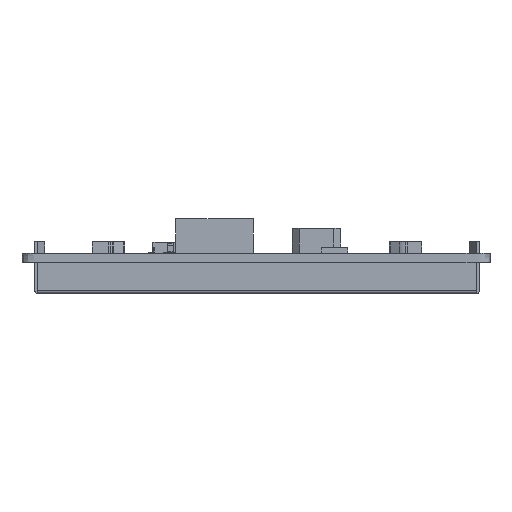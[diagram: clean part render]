
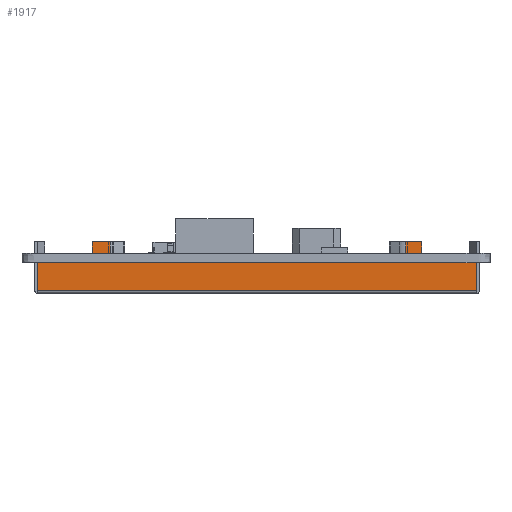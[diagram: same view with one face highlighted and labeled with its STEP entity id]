
A CAD part, left-side view. The second image highlights one B-rep face of the part: STEP entity #1917.
In plain terms, the highlighted planar face has unit normal (-1, 0, 0).
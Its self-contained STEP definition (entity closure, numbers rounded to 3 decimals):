
#1917=ADVANCED_FACE('',(#3896),#2811,.F.);
#2811=PLANE('',#24293);
#3896=FACE_OUTER_BOUND('',#5030,.T.);
#5030=EDGE_LOOP('',(#11233,#11234,#11235,#11236,#11237,#11238,#11239,#11240,
#11241,#11242,#11243,#11244,#11245,#11246,#11247,#11248));
#11233=ORIENTED_EDGE('',*,*,#17152,.F.);
#11234=ORIENTED_EDGE('',*,*,#17153,.T.);
#11235=ORIENTED_EDGE('',*,*,#17154,.T.);
#11236=ORIENTED_EDGE('',*,*,#17149,.T.);
#11237=ORIENTED_EDGE('',*,*,#17155,.T.);
#11238=ORIENTED_EDGE('',*,*,#17156,.F.);
#11239=ORIENTED_EDGE('',*,*,#17157,.T.);
#11240=ORIENTED_EDGE('',*,*,#17158,.F.);
#11241=ORIENTED_EDGE('',*,*,#17159,.F.);
#11242=ORIENTED_EDGE('',*,*,#17145,.T.);
#11243=ORIENTED_EDGE('',*,*,#17160,.T.);
#11244=ORIENTED_EDGE('',*,*,#17161,.T.);
#11245=ORIENTED_EDGE('',*,*,#17162,.F.);
#11246=ORIENTED_EDGE('',*,*,#17163,.F.);
#11247=ORIENTED_EDGE('',*,*,#17164,.F.);
#11248=ORIENTED_EDGE('',*,*,#17143,.T.);
#14087=VERTEX_POINT('',#35925);
#14089=VERTEX_POINT('',#35929);
#14090=VERTEX_POINT('',#35933);
#14092=VERTEX_POINT('',#35936);
#14094=VERTEX_POINT('',#35942);
#14096=VERTEX_POINT('',#35945);
#14098=VERTEX_POINT('',#35951);
#14099=VERTEX_POINT('',#35953);
#14100=VERTEX_POINT('',#35956);
#14101=VERTEX_POINT('',#35958);
#14102=VERTEX_POINT('',#35960);
#14103=VERTEX_POINT('',#35962);
#14104=VERTEX_POINT('',#35965);
#14105=VERTEX_POINT('',#35967);
#14106=VERTEX_POINT('',#35969);
#14107=VERTEX_POINT('',#35971);
#17143=EDGE_CURVE('',#14087,#14089,#19884,.T.);
#17145=EDGE_CURVE('',#14092,#14090,#19886,.T.);
#17149=EDGE_CURVE('',#14096,#14094,#19890,.T.);
#17152=EDGE_CURVE('',#14098,#14089,#19893,.T.);
#17153=EDGE_CURVE('',#14098,#14099,#19894,.T.);
#17154=EDGE_CURVE('',#14099,#14096,#19895,.T.);
#17155=EDGE_CURVE('',#14094,#14100,#19896,.T.);
#17156=EDGE_CURVE('',#14101,#14100,#19897,.T.);
#17157=EDGE_CURVE('',#14101,#14102,#19898,.T.);
#17158=EDGE_CURVE('',#14103,#14102,#19899,.T.);
#17159=EDGE_CURVE('',#14092,#14103,#19900,.T.);
#17160=EDGE_CURVE('',#14090,#14104,#19901,.T.);
#17161=EDGE_CURVE('',#14104,#14105,#19902,.T.);
#17162=EDGE_CURVE('',#14106,#14105,#19903,.T.);
#17163=EDGE_CURVE('',#14107,#14106,#19904,.T.);
#17164=EDGE_CURVE('',#14087,#14107,#19905,.T.);
#19884=LINE('',#35930,#22468);
#19886=LINE('',#35935,#22470);
#19890=LINE('',#35944,#22474);
#19893=LINE('',#35950,#22477);
#19894=LINE('',#35952,#22478);
#19895=LINE('',#35954,#22479);
#19896=LINE('',#35955,#22480);
#19897=LINE('',#35957,#22481);
#19898=LINE('',#35959,#22482);
#19899=LINE('',#35961,#22483);
#19900=LINE('',#35963,#22484);
#19901=LINE('',#35964,#22485);
#19902=LINE('',#35966,#22486);
#19903=LINE('',#35968,#22487);
#19904=LINE('',#35970,#22488);
#19905=LINE('',#35972,#22489);
#22468=VECTOR('',#29584,1.);
#22470=VECTOR('',#29588,1.);
#22474=VECTOR('',#29594,1.);
#22477=VECTOR('',#29599,1.);
#22478=VECTOR('',#29600,1.);
#22479=VECTOR('',#29601,1.);
#22480=VECTOR('',#29602,1.);
#22481=VECTOR('',#29603,1.);
#22482=VECTOR('',#29604,1.);
#22483=VECTOR('',#29605,1.);
#22484=VECTOR('',#29606,1.);
#22485=VECTOR('',#29607,1.);
#22486=VECTOR('',#29608,1.);
#22487=VECTOR('',#29609,1.);
#22488=VECTOR('',#29610,1.);
#22489=VECTOR('',#29611,1.);
#24293=AXIS2_PLACEMENT_3D('',#35973,#29612,#29613);
#29584=DIRECTION('',(0.,1.,0.));
#29588=DIRECTION('',(0.,1.,0.));
#29594=DIRECTION('',(0.,1.,0.));
#29599=DIRECTION('',(0.,0.,1.));
#29600=DIRECTION('',(0.,-1.,0.));
#29601=DIRECTION('',(0.,0.,1.));
#29602=DIRECTION('',(0.,0.,1.));
#29603=DIRECTION('',(0.,-1.,0.));
#29604=DIRECTION('',(0.,0.,-1.));
#29605=DIRECTION('',(0.,-1.,0.));
#29606=DIRECTION('',(0.,0.,1.));
#29607=DIRECTION('',(0.,0.,1.));
#29608=DIRECTION('',(0.,-1.,0.));
#29609=DIRECTION('',(0.,0.,-1.));
#29610=DIRECTION('',(0.,-1.,0.));
#29611=DIRECTION('',(0.,0.,1.));
#29612=DIRECTION('',(1.,0.,0.));
#29613=DIRECTION('',(0.,1.,0.));
#35925=CARTESIAN_POINT('',(59.66,45.295,-1.6));
#35929=CARTESIAN_POINT('',(59.66,54.82,-1.6));
#35930=CARTESIAN_POINT('',(59.66,-21.2,-1.6));
#35933=CARTESIAN_POINT('',(59.66,42.295,-1.6));
#35935=CARTESIAN_POINT('',(59.66,-21.2,-1.6));
#35936=CARTESIAN_POINT('',(59.66,-8.635,-1.6));
#35942=CARTESIAN_POINT('',(59.66,-11.635,-1.6));
#35944=CARTESIAN_POINT('',(59.66,-21.2,-1.6));
#35945=CARTESIAN_POINT('',(59.66,-21.2,-1.6));
#35950=CARTESIAN_POINT('',(59.66,54.82,-6.9));
#35951=CARTESIAN_POINT('',(59.66,54.82,-6.5));
#35952=CARTESIAN_POINT('',(59.66,-21.2,-6.5));
#35953=CARTESIAN_POINT('',(59.66,-21.2,-6.5));
#35954=CARTESIAN_POINT('',(59.66,-21.2,-6.9));
#35955=CARTESIAN_POINT('',(59.66,-11.635,-1.6));
#35956=CARTESIAN_POINT('',(59.66,-11.635,2.));
#35957=CARTESIAN_POINT('',(59.66,-8.924,2.));
#35958=CARTESIAN_POINT('',(59.66,-8.924,2.));
#35959=CARTESIAN_POINT('',(59.66,-8.924,2.));
#35960=CARTESIAN_POINT('',(59.66,-8.924,0.));
#35961=CARTESIAN_POINT('',(59.66,-8.635,0.));
#35962=CARTESIAN_POINT('',(59.66,-8.635,0.));
#35963=CARTESIAN_POINT('',(59.66,-8.635,-1.6));
#35964=CARTESIAN_POINT('',(59.66,42.295,-1.6));
#35965=CARTESIAN_POINT('',(59.66,42.295,0.));
#35966=CARTESIAN_POINT('',(59.66,45.295,0.));
#35967=CARTESIAN_POINT('',(59.66,42.191,0.));
#35968=CARTESIAN_POINT('',(59.66,42.191,2.));
#35969=CARTESIAN_POINT('',(59.66,42.191,2.));
#35970=CARTESIAN_POINT('',(59.66,45.295,2.));
#35971=CARTESIAN_POINT('',(59.66,45.295,2.));
#35972=CARTESIAN_POINT('',(59.66,45.295,-1.6));
#35973=CARTESIAN_POINT('',(59.66,-21.2,-6.9));
